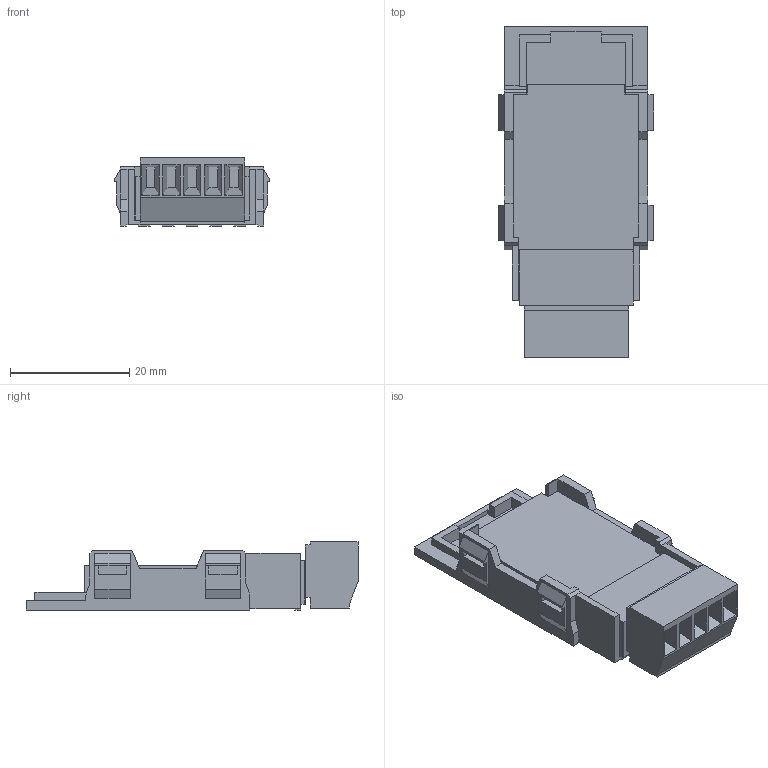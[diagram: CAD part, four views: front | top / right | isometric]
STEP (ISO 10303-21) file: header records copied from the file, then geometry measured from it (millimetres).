
FILE_DESCRIPTION (( 'STEP AP203' ), '1' );
FILE_NAME ('afpg803.STEP', '2013-07-17T06:42:23', ( 'sunx' ), ( 'sunx' ), 'SwSTEP 2.0', 'SolidWorks 2010', '' );
FILE_SCHEMA (( 'CONFIG_CONTROL_DESIGN' ));
Length unit declared in the file: millimetre
Products named in the file (1): afpg803
Bounding box: 26 x 55.6 x 11.4 mm (x, y, z)
Volume: 8243.2 mm3; surface area: 5234.9 mm2
Topology: 1 solids, 1 shells, 338 faces, 942 edges, 620 vertices
Faces by surface type: plane 308, cylinder 30
Entity records: 10731 total; most frequent: CARTESIAN_POINT 1901, ORIENTED_EDGE 1884, DIRECTION 1700, EDGE_CURVE 942, VECTOR 862, LINE 862, VERTEX_POINT 620, AXIS2_PLACEMENT_3D 419
